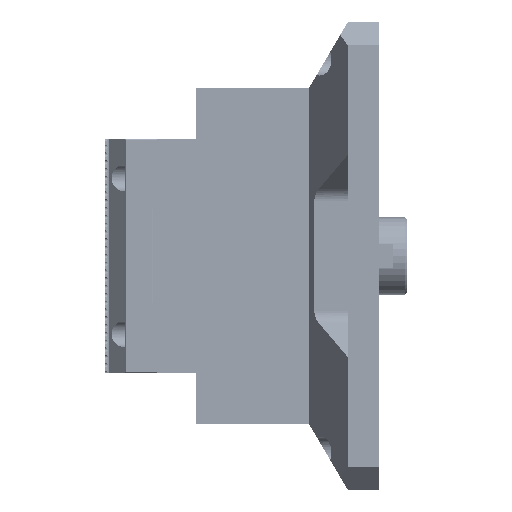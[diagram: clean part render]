
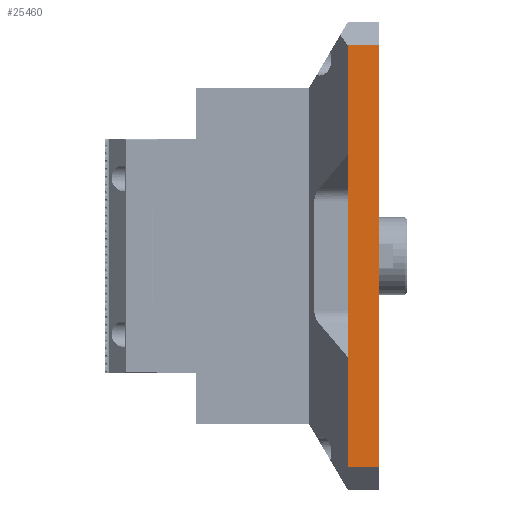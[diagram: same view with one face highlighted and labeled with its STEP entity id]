
A CAD part, left-side view. The second image highlights one B-rep face of the part: STEP entity #25460.
In plain terms, the highlighted planar face has unit normal (-1, 0, 0).
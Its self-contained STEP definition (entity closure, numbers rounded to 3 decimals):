
#2232 = VECTOR ( 'NONE', #11716, 1000. ) ;
#6510 = CARTESIAN_POINT ( 'NONE',  ( -160., -25., 150. ) ) ;
#7806 = DIRECTION ( 'NONE',  ( 0., -1., 0. ) ) ;
#11716 = DIRECTION ( 'NONE',  ( 0., 0., -1. ) ) ;
#15991 = VECTOR ( 'NONE', #7806, 1000. ) ;
#16773 = CARTESIAN_POINT ( 'NONE',  ( -160., -45., 135. ) ) ;
#18664 = ORIENTED_EDGE ( 'NONE', *, *, #120611, .T. ) ;
#23104 = VECTOR ( 'NONE', #97273, 1000. ) ;
#25460 = ADVANCED_FACE ( 'NONE', ( #70293 ), #89125, .F. ) ;
#31147 = VERTEX_POINT ( 'NONE', #124378 ) ;
#37081 = CARTESIAN_POINT ( 'NONE',  ( -160., -25., 150. ) ) ;
#39071 = ORIENTED_EDGE ( 'NONE', *, *, #48531, .F. ) ;
#39176 = CARTESIAN_POINT ( 'NONE',  ( -160., -45., 150. ) ) ;
#48138 = VECTOR ( 'NONE', #117681, 1000. ) ;
#48531 = EDGE_CURVE ( 'NONE', #127650, #31147, #86396, .T. ) ;
#49532 = EDGE_CURVE ( 'NONE', #127650, #125156, #50652, .T. ) ;
#50652 = LINE ( 'NONE', #109697, #2232 ) ;
#51487 = DIRECTION ( 'NONE',  ( 1., 0., 0. ) ) ;
#51763 = EDGE_CURVE ( 'NONE', #70847, #31147, #67695, .T. ) ;
#59295 = ORIENTED_EDGE ( 'NONE', *, *, #113701, .F. ) ;
#60579 = DIRECTION ( 'NONE',  ( 0., 0., -1. ) ) ;
#61289 = CARTESIAN_POINT ( 'NONE',  ( -160., -25., -135. ) ) ;
#63804 = VERTEX_POINT ( 'NONE', #61289 ) ;
#67695 = LINE ( 'NONE', #87169, #48138 ) ;
#70293 = FACE_OUTER_BOUND ( 'NONE', #127800, .T. ) ;
#70847 = VERTEX_POINT ( 'NONE', #16773 ) ;
#72201 = VERTEX_POINT ( 'NONE', #100188 ) ;
#74488 = ORIENTED_EDGE ( 'NONE', *, *, #49532, .T. ) ;
#76674 = DIRECTION ( 'NONE',  ( 0., 0., 1. ) ) ;
#77211 = CARTESIAN_POINT ( 'NONE',  ( -160., -45., -135. ) ) ;
#80715 = VECTOR ( 'NONE', #86903, 1000. ) ;
#85094 = ORIENTED_EDGE ( 'NONE', *, *, #51763, .T. ) ;
#86396 = LINE ( 'NONE', #37081, #99414 ) ;
#86882 = LINE ( 'NONE', #115470, #23104 ) ;
#86903 = DIRECTION ( 'NONE',  ( 0., 0., 1. ) ) ;
#87169 = CARTESIAN_POINT ( 'NONE',  ( -160., -45., 135. ) ) ;
#89125 = PLANE ( 'NONE',  #90938 ) ;
#90938 = AXIS2_PLACEMENT_3D ( 'NONE', #39176, #51487, #60579 ) ;
#96666 = LINE ( 'NONE', #77211, #15991 ) ;
#97273 = DIRECTION ( 'NONE',  ( 0., 0., -1. ) ) ;
#99414 = VECTOR ( 'NONE', #76674, 1000. ) ;
#100188 = CARTESIAN_POINT ( 'NONE',  ( -160., -45., -135. ) ) ;
#104496 = LINE ( 'NONE', #6510, #80715 ) ;
#109697 = CARTESIAN_POINT ( 'NONE',  ( -160., -25., 64.836 ) ) ;
#111884 = CARTESIAN_POINT ( 'NONE',  ( -160., -25., -64.836 ) ) ;
#113701 = EDGE_CURVE ( 'NONE', #70847, #72201, #86882, .T. ) ;
#115470 = CARTESIAN_POINT ( 'NONE',  ( -160., -45., 150. ) ) ;
#117681 = DIRECTION ( 'NONE',  ( 0., 1., 0. ) ) ;
#118430 = ORIENTED_EDGE ( 'NONE', *, *, #126272, .F. ) ;
#119061 = CARTESIAN_POINT ( 'NONE',  ( -160., -25., 64.836 ) ) ;
#120611 = EDGE_CURVE ( 'NONE', #63804, #72201, #96666, .T. ) ;
#124378 = CARTESIAN_POINT ( 'NONE',  ( -160., -25., 135. ) ) ;
#125156 = VERTEX_POINT ( 'NONE', #111884 ) ;
#126272 = EDGE_CURVE ( 'NONE', #63804, #125156, #104496, .T. ) ;
#127650 = VERTEX_POINT ( 'NONE', #119061 ) ;
#127800 = EDGE_LOOP ( 'NONE', ( #118430, #18664, #59295, #85094, #39071, #74488 ) ) ;
